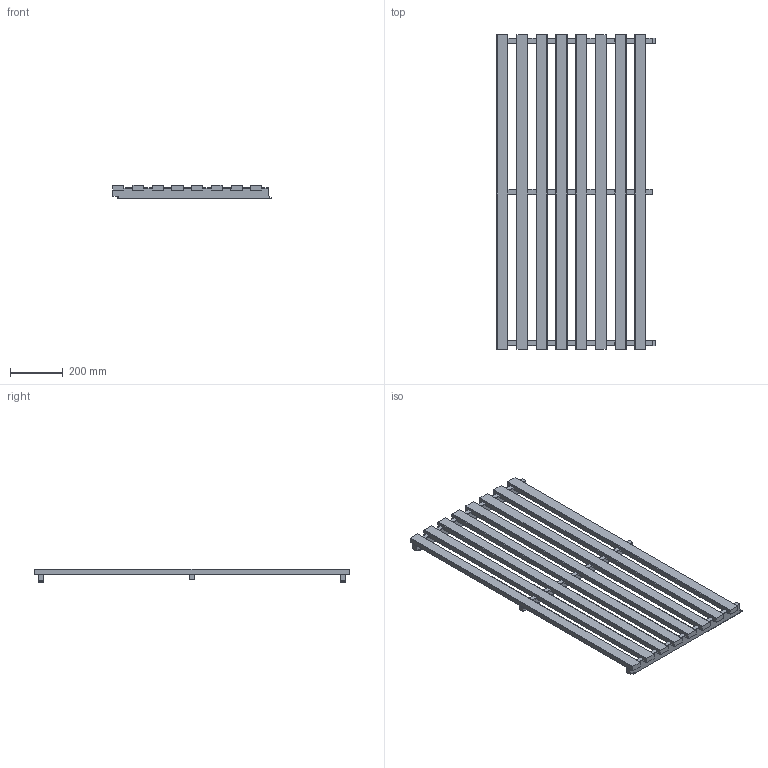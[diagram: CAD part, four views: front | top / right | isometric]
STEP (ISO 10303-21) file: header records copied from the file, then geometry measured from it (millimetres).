
FILE_DESCRIPTION (( 'STEP AP214' ), '1' );
FILE_NAME ('Lao 4.2.3.STEP', '2024-05-31T09:17:04', ( 'UTILISATEUR' ), ( '' ), 'SwSTEP 2.0', 'SolidWorks 2021', '' );
FILE_SCHEMA (( 'AUTOMOTIVE_DESIGN' ));
Length unit declared in the file: millimetre
Products named in the file (4): Lao 4.2.3; Contrelatte 20x42_4.2.3; Lame aboutée 20x42x1199mm_1199; Contrelatte centrale 20x28_4.2.3
Assembly tree (11 placements, depth 2):
  Lao 4.2.3
    Contrelatte 20x42_4.2.3  x2
    Lame aboutée 20x42x1199mm_1199  x8
    Contrelatte centrale 20x28_4.2.3
Bounding box: 603 x 1199 x 52 mm (x, y, z)
Volume: 9131584.6 mm3; surface area: 1365530 mm2
Topology: 11 solids, 11 shells, 282 faces, 780 edges, 520 vertices
Faces by surface type: plane 262, cylinder 20
Entity records: 4970 total; most frequent: CARTESIAN_POINT 872, ORIENTED_EDGE 840, DIRECTION 772, EDGE_CURVE 420, VECTOR 380, LINE 380, VERTEX_POINT 280, AXIS2_PLACEMENT_3D 196
